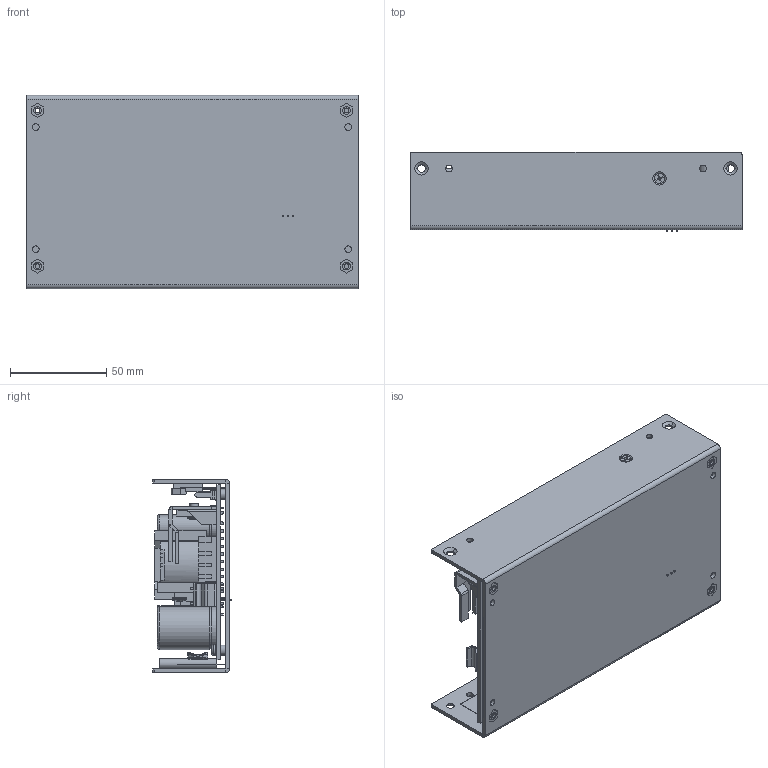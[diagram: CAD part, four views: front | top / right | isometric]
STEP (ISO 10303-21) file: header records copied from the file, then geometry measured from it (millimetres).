
FILE_DESCRIPTION (( 'STEP AP203' ), '1' );
FILE_NAME ('SNP-Z15X.STEP', '2014-11-13T06:15:25', ( 'mech1' ), ( '' ), 'SwSTEP 2.0', 'SolidWorks 2014', '' );
FILE_SCHEMA (( 'CONFIG_CONTROL_DESIGN' ));
Length unit declared in the file: millimetre
Products named in the file (26): SNP-Z15X; 790-513X; 800-SE40-2; 410-GU8J; 800-SE30; 850-Z15X; 800-Z15D; 245-Q110; 700-RFS4; 203-H215; 360-Z15X; 710-733; 202-B210; 831-Z151; PIN-1.14x17.45; 780-s009; 890-ta30; 832-Z153; 710-7702; 800-t22m; 790-1S3X; 790-913X; 710-7309; 795-6204; TO-220; 710-4502
Assembly tree (42 placements, depth 3):
  SNP-Z15X
    850-Z15X
    700-RFS4  x3
    710-7702
      710-733
      PIN-1.14x17.45  x2
    710-7309
    710-4502  x2
    800-SE40-2
    800-SE30
    245-Q110
    360-Z15X
    831-Z151
    832-Z153
    790-913X  x4
    TO-220  x4
    790-513X  x4
    410-GU8J
    800-Z15D
    203-H215  x2
    202-B210
    890-ta30  x2
    790-1S3X  x2
    780-s009  x2
    800-t22m
    795-6204
Bounding box: 172.7 x 41 x 100.5 mm (x, y, z)
Volume: 158353.3 mm3; surface area: 177820.9 mm2
Topology: 66 solids, 66 shells, 2344 faces, 5954 edges, 3753 vertices
Faces by surface type: plane 1359, cylinder 443, bspline 417, sphere 56, cone 37, torus 32
Entity records: 52803 total; most frequent: CARTESIAN_POINT 13354, ORIENTED_EDGE 7672, DIRECTION 7161, EDGE_CURVE 3836, LINE 2695, VECTOR 2695, VERTEX_POINT 2429, AXIS2_PLACEMENT_3D 2233
